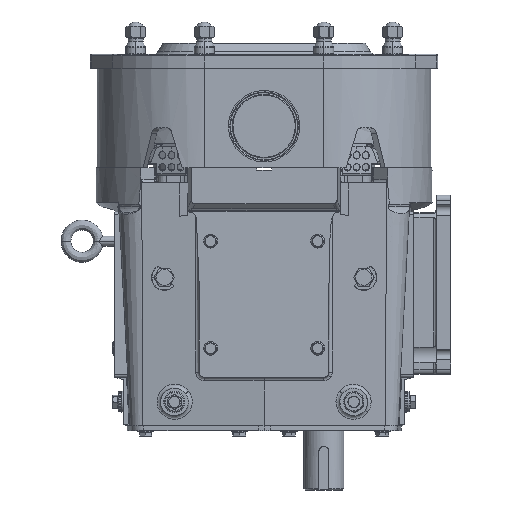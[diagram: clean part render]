
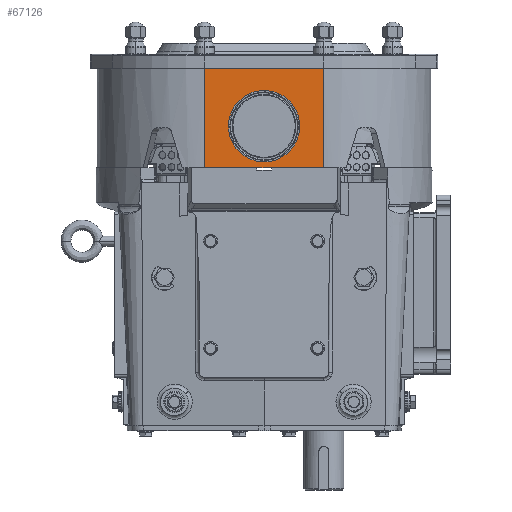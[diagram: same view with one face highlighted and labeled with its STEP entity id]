
A CAD part, left-side view. The second image highlights one B-rep face of the part: STEP entity #67126.
In plain terms, the highlighted planar face has unit normal (-1, 0, 0).
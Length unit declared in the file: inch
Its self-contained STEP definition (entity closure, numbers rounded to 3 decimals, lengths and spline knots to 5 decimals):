
#680 = EDGE_LOOP ( 'NONE', ( #14636, #17541 ) ) ;
#3140 = LINE ( 'NONE', #5298, #70139 ) ;
#4149 = ORIENTED_EDGE ( 'NONE', *, *, #16955, .T. ) ;
#5298 = CARTESIAN_POINT ( 'NONE',  ( -5.38, -6., -0.40517 ) ) ;
#5336 = VERTEX_POINT ( 'NONE', #22985 ) ;
#5877 = CARTESIAN_POINT ( 'NONE',  ( -5.38, -3., 0.348 ) ) ;
#6773 = DIRECTION ( 'NONE',  ( 0., -1., 0. ) ) ;
#6993 = CARTESIAN_POINT ( 'NONE',  ( -5.38, -3., 3.506 ) ) ;
#7829 = CARTESIAN_POINT ( 'NONE',  ( -5.38, 0., 4.817 ) ) ;
#8608 = VECTOR ( 'NONE', #19319, 39.37008 ) ;
#10054 = CARTESIAN_POINT ( 'NONE',  ( -5.38, 0., -0.156 ) ) ;
#10799 = EDGE_CURVE ( 'NONE', #52835, #42610, #59255, .T. ) ;
#11701 = LINE ( 'NONE', #26931, #78743 ) ;
#11776 = DIRECTION ( 'NONE',  ( -1., 0., 0. ) ) ;
#12807 = VERTEX_POINT ( 'NONE', #10054 ) ;
#14636 = ORIENTED_EDGE ( 'NONE', *, *, #77328, .F. ) ;
#15851 = LINE ( 'NONE', #65681, #82985 ) ;
#16122 = VERTEX_POINT ( 'NONE', #7829 ) ;
#16955 = EDGE_CURVE ( 'NONE', #44287, #5336, #42919, .T. ) ;
#17541 = ORIENTED_EDGE ( 'NONE', *, *, #10799, .F. ) ;
#18492 = EDGE_CURVE ( 'NONE', #58687, #70767, #3140, .T. ) ;
#19319 = DIRECTION ( 'NONE',  ( 0., 0., 1. ) ) ;
#22985 = CARTESIAN_POINT ( 'NONE',  ( -5.38, -3.375, -0.156 ) ) ;
#23553 = VECTOR ( 'NONE', #81503, 39.37008 ) ;
#24724 = DIRECTION ( 'NONE',  ( 0., 0., -1. ) ) ;
#26688 = DIRECTION ( 'NONE',  ( 0., -1., 0. ) ) ;
#26931 = CARTESIAN_POINT ( 'NONE',  ( -5.38, 0., 4.817 ) ) ;
#28044 = FACE_BOUND ( 'NONE', #680, .T. ) ;
#30148 = CARTESIAN_POINT ( 'NONE',  ( -5.38, -3., 1.927 ) ) ;
#31484 = ORIENTED_EDGE ( 'NONE', *, *, #44215, .T. ) ;
#31968 = CARTESIAN_POINT ( 'NONE',  ( -5.38, -6., -0.156 ) ) ;
#32259 = CARTESIAN_POINT ( 'NONE',  ( -5.38, -3., 1.927 ) ) ;
#32923 = DIRECTION ( 'NONE',  ( 0., -1., 0. ) ) ;
#33955 = VECTOR ( 'NONE', #6773, 39.37008 ) ;
#34365 = ORIENTED_EDGE ( 'NONE', *, *, #73342, .F. ) ;
#36194 = EDGE_LOOP ( 'NONE', ( #67536, #4149, #31484, #50241, #34365, #41047 ) ) ;
#36709 = DIRECTION ( 'NONE',  ( 0., 0., 1. ) ) ;
#37568 = CARTESIAN_POINT ( 'NONE',  ( -5.38, -3., -4.073 ) ) ;
#38812 = DIRECTION ( 'NONE',  ( 0., 0., 1. ) ) ;
#41047 = ORIENTED_EDGE ( 'NONE', *, *, #69000, .F. ) ;
#42552 = CARTESIAN_POINT ( 'NONE',  ( -5.38, 0., -0.156 ) ) ;
#42610 = VERTEX_POINT ( 'NONE', #6993 ) ;
#42642 = CIRCLE ( 'NONE', #74012, 1.579 ) ;
#42919 = LINE ( 'NONE', #42552, #23553 ) ;
#43095 = LINE ( 'NONE', #71893, #8608 ) ;
#44215 = EDGE_CURVE ( 'NONE', #5336, #70767, #68572, .T. ) ;
#44287 = VERTEX_POINT ( 'NONE', #59816 ) ;
#45607 = CARTESIAN_POINT ( 'NONE',  ( -5.38, 0., -0.156 ) ) ;
#50241 = ORIENTED_EDGE ( 'NONE', *, *, #18492, .F. ) ;
#50417 = PLANE ( 'NONE',  #73246 ) ;
#52835 = VERTEX_POINT ( 'NONE', #5877 ) ;
#53813 = CARTESIAN_POINT ( 'NONE',  ( -5.38, -6., 4.817 ) ) ;
#55531 = AXIS2_PLACEMENT_3D ( 'NONE', #30148, #75670, #36709 ) ;
#57213 = DIRECTION ( 'NONE',  ( 0., 0., 1. ) ) ;
#58687 = VERTEX_POINT ( 'NONE', #53813 ) ;
#59255 = CIRCLE ( 'NONE', #55531, 1.579 ) ;
#59816 = CARTESIAN_POINT ( 'NONE',  ( -5.38, -2.625, -0.156 ) ) ;
#65681 = CARTESIAN_POINT ( 'NONE',  ( -5.38, 0., -0.156 ) ) ;
#67126 = ADVANCED_FACE ( 'NONE', ( #77922, #28044 ), #50417, .T. ) ;
#67312 = EDGE_CURVE ( 'NONE', #12807, #44287, #15851, .T. ) ;
#67536 = ORIENTED_EDGE ( 'NONE', *, *, #67312, .T. ) ;
#68572 = LINE ( 'NONE', #45607, #33955 ) ;
#69000 = EDGE_CURVE ( 'NONE', #12807, #16122, #43095, .T. ) ;
#70139 = VECTOR ( 'NONE', #24724, 39.37008 ) ;
#70767 = VERTEX_POINT ( 'NONE', #31968 ) ;
#71893 = CARTESIAN_POINT ( 'NONE',  ( -5.38, 0., -4.073 ) ) ;
#73246 = AXIS2_PLACEMENT_3D ( 'NONE', #37568, #11776, #57213 ) ;
#73342 = EDGE_CURVE ( 'NONE', #16122, #58687, #11701, .T. ) ;
#74012 = AXIS2_PLACEMENT_3D ( 'NONE', #32259, #77762, #38812 ) ;
#75670 = DIRECTION ( 'NONE',  ( -1., 0., 0. ) ) ;
#77328 = EDGE_CURVE ( 'NONE', #42610, #52835, #42642, .T. ) ;
#77762 = DIRECTION ( 'NONE',  ( -1., 0., 0. ) ) ;
#77922 = FACE_OUTER_BOUND ( 'NONE', #36194, .T. ) ;
#78743 = VECTOR ( 'NONE', #32923, 39.37008 ) ;
#81503 = DIRECTION ( 'NONE',  ( 0., -1., 0. ) ) ;
#82985 = VECTOR ( 'NONE', #26688, 39.37008 ) ;
